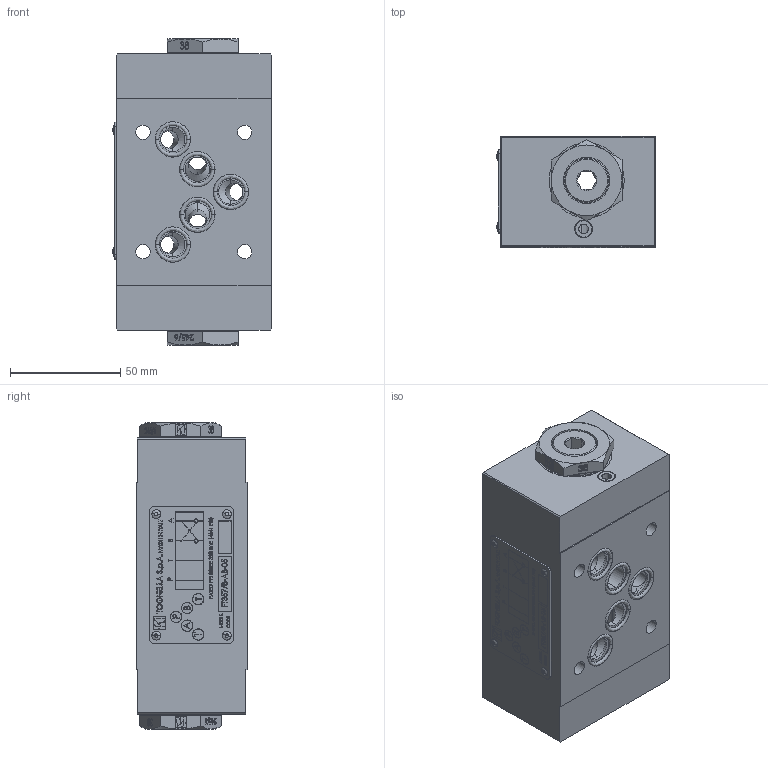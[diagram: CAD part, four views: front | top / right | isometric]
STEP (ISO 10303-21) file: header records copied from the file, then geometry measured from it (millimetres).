
FILE_DESCRIPTION (( 'STEP AP214' ), '1' );
FILE_NAME ('357-8-AB-05.STEP', '2019-12-04T08:06:57', ( '' ), ( '' ), 'SwSTEP 2.0', 'SolidWorks 2018', '' );
FILE_SCHEMA (( 'AUTOMOTIVE_DESIGN' ));
Length unit declared in the file: millimetre
Products named in the file (1): 357-8-AB-05
Bounding box: 71.66 x 50.58 x 138.6 mm (x, y, z)
Surface area: 54535.9 mm2 (no closed solid volume)
Topology: 0 solids, 42 shells, 830 faces, 4080 edges, 3184 vertices
Faces by surface type: plane 467, bspline 159, cylinder 132, cone 64, sphere 8
Entity records: 67012 total; most frequent: CARTESIAN_POINT 28732, ORIENTED_EDGE 5529, DIRECTION 4775, EDGE_CURVE 4078, VERTEX_POINT 3184, VECTOR 2629, LINE 2629, AXIS2_PLACEMENT_3D 1073
